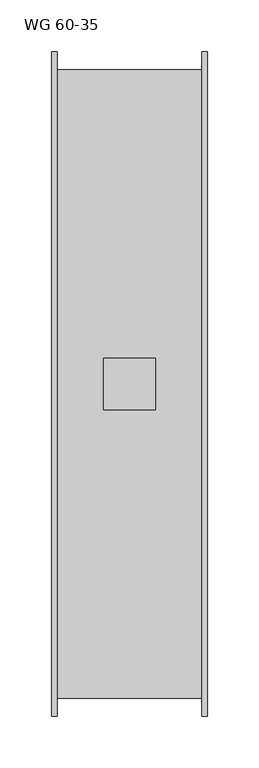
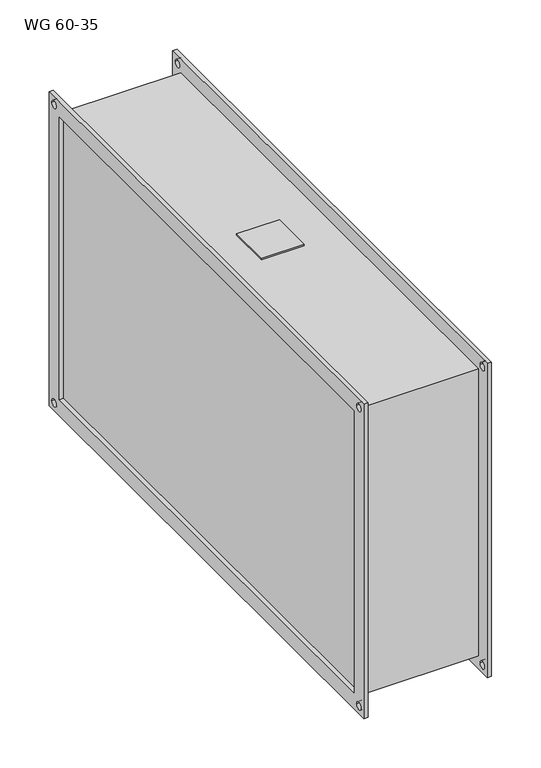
"""IFC4 building model written with IfcOpenShell, lengths in millimetres: damper geometry, KORF_Вставка_Гибкая_WG : WG 60-35."""

from ifc_helpers import new_model, si_unit, point, frame, frame_2d, origin, place, context, project, spatial, polyline, circle_curve, trimmed, segment, composite_curve, outline, extrude, source, transform, mapped, element, save


def wg_60_35_c44a4c4a(model_context):
    return source(origin(), model_context, "Body", "SweptSolid", [
        extrude(outline(polyline([(50.0, -25.0), (50.0, 25.0), (100.0, 25.0), (100.0, -25.0), (50.0, -25.0)])), frame((0.0, 0.0, 178.0), z_axis=(0.0, 0.0, 1.0), x_axis=(1.0, 0.0, 0.0)), (0.0, 0.0, 1.0), 2.0),
        extrude(outline(polyline([(-320.0, 195.0), (320.0, 195.0), (320.0, -195.0), (-320.0, -195.0), (-320.0, 195.0)]), holes=[polyline([(-300.0, 175.0), (-300.0, -175.0), (300.0, -175.0), (300.0, 175.0), (-300.0, 175.0)]), composite_curve([segment(trimmed(circle_curve(frame_2d((310.0, 185.0)), 4.5), [point((305.5, 185.0))], [point((314.5, 185.0))], True, "CARTESIAN"), True, "CONTINUOUS"), segment(trimmed(circle_curve(frame_2d((310.0, 185.0)), 4.5), [point((314.5, 185.0))], [point((305.5, 185.0))], True, "CARTESIAN"), True, "CONTINUOUS")], self_intersect=False), composite_curve([segment(trimmed(circle_curve(frame_2d((-310.0, 185.0)), 4.5), [point((-314.5, 185.0))], [point((-305.5, 185.0))], True, "CARTESIAN"), True, "CONTINUOUS"), segment(trimmed(circle_curve(frame_2d((-310.0, 185.0)), 4.5), [point((-305.5, 185.0))], [point((-314.5, 185.0))], True, "CARTESIAN"), True, "CONTINUOUS")], self_intersect=False), composite_curve([segment(trimmed(circle_curve(frame_2d((-310.0, -185.0)), 4.5), [point((-314.5, -185.0))], [point((-305.5, -185.0))], True, "CARTESIAN"), True, "CONTINUOUS"), segment(trimmed(circle_curve(frame_2d((-310.0, -185.0)), 4.5), [point((-305.5, -185.0))], [point((-314.5, -185.0))], True, "CARTESIAN"), True, "CONTINUOUS")], self_intersect=False), composite_curve([segment(trimmed(circle_curve(frame_2d((310.0, -185.0)), 4.5), [point((305.5, -185.0))], [point((314.5, -185.0))], True, "CARTESIAN"), True, "CONTINUOUS"), segment(trimmed(circle_curve(frame_2d((310.0, -185.0)), 4.5), [point((314.5, -185.0))], [point((305.5, -185.0))], True, "CARTESIAN"), True, "CONTINUOUS")], self_intersect=False)]), frame((145.0, 0.0, 0.0), z_axis=(1.0, 0.0, 0.0), x_axis=(0.0, 1.0, 0.0)), (0.0, 0.0, 1.0), 5.0),
        extrude(outline(polyline([(-320.0, 195.0), (320.0, 195.0), (320.0, -195.0), (-320.0, -195.0), (-320.0, 195.0)]), holes=[polyline([(-300.0, 175.0), (-300.0, -175.0), (300.0, -175.0), (300.0, 175.0), (-300.0, 175.0)]), composite_curve([segment(trimmed(circle_curve(frame_2d((310.0, 185.0)), 4.5), [point((305.5, 185.0))], [point((314.5, 185.0))], True, "CARTESIAN"), True, "CONTINUOUS"), segment(trimmed(circle_curve(frame_2d((310.0, 185.0)), 4.5), [point((314.5, 185.0))], [point((305.5, 185.0))], True, "CARTESIAN"), True, "CONTINUOUS")], self_intersect=False), composite_curve([segment(trimmed(circle_curve(frame_2d((-310.0, 185.0)), 4.5), [point((-314.5, 185.0))], [point((-305.5, 185.0))], True, "CARTESIAN"), True, "CONTINUOUS"), segment(trimmed(circle_curve(frame_2d((-310.0, 185.0)), 4.5), [point((-305.5, 185.0))], [point((-314.5, 185.0))], True, "CARTESIAN"), True, "CONTINUOUS")], self_intersect=False), composite_curve([segment(trimmed(circle_curve(frame_2d((-310.0, -185.0)), 4.5), [point((-314.5, -185.0))], [point((-305.5, -185.0))], True, "CARTESIAN"), True, "CONTINUOUS"), segment(trimmed(circle_curve(frame_2d((-310.0, -185.0)), 4.5), [point((-305.5, -185.0))], [point((-314.5, -185.0))], True, "CARTESIAN"), True, "CONTINUOUS")], self_intersect=False), composite_curve([segment(trimmed(circle_curve(frame_2d((310.0, -185.0)), 4.5), [point((305.5, -185.0))], [point((314.5, -185.0))], True, "CARTESIAN"), True, "CONTINUOUS"), segment(trimmed(circle_curve(frame_2d((310.0, -185.0)), 4.5), [point((314.5, -185.0))], [point((305.5, -185.0))], True, "CARTESIAN"), True, "CONTINUOUS")], self_intersect=False)]), frame((0.0, 0.0, 0.0), z_axis=(1.0, 0.0, 0.0), x_axis=(0.0, 1.0, 0.0)), (0.0, 0.0, 1.0), 5.0),
        extrude(outline(polyline([(145.0, 303.0), (145.0, -303.0), (5.0, -303.0), (5.0, 303.0), (145.0, 303.0)])), frame((0.0, 0.0, -178.0), z_axis=(0.0, 0.0, 1.0), x_axis=(1.0, 0.0, 0.0)), (0.0, 0.0, 1.0), 356.0),
    ])


if __name__ == "__main__":
    model = new_model("IFC4")
    model_context = context("Model", 3, world=origin())
    ifc_project = project(units=[si_unit("LENGTHUNIT", "METRE", prefix="MILLI")], contexts=[model_context])
    site = spatial("IfcSite", under=ifc_project)
    building = spatial("IfcBuilding", under=site)
    placement = place(None, origin())
    wg_60_35_shape = wg_60_35_c44a4c4a(model_context)
    element("IfcDamper", 1, ObjectType="KORF_Вставка_Гибкая_WG : WG 60-35", at=placement, inside=building, context=model_context, shape_type="MappedRepresentation", body=[
        mapped(wg_60_35_shape, transform((0.0, 0.0, 0.0), x_axis=(1.0, 0.0, 0.0), y_axis=(0.0, 1.0, 0.0), z_axis=(0.0, 0.0, 1.0))),
    ])
    save(model, "model.ifc")
